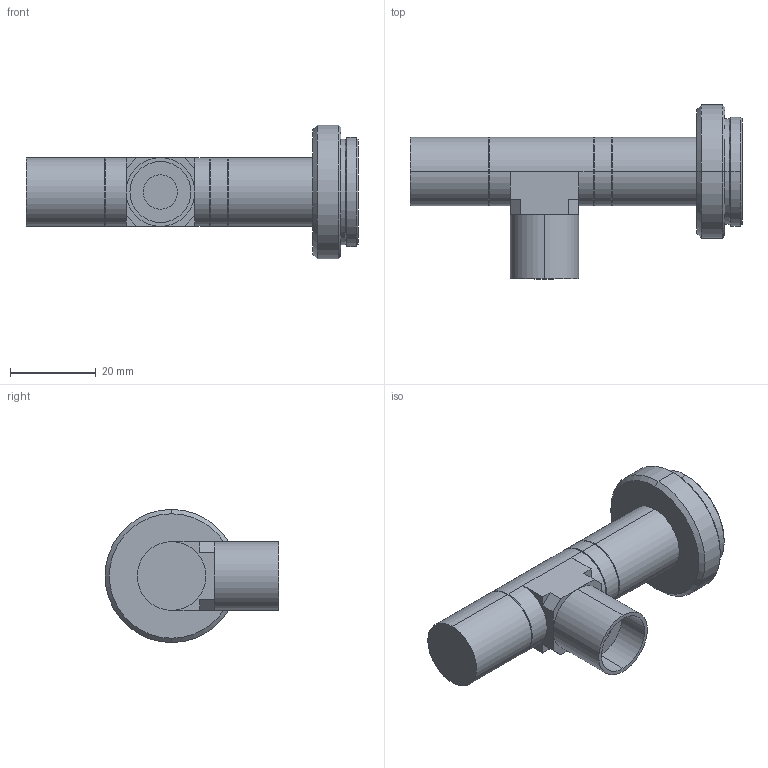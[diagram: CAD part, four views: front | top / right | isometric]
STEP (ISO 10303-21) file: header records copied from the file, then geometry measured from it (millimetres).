
FILE_DESCRIPTION (( 'STEP AP203' ), '1' );
FILE_NAME ('VS-TC5-65CO.STEP', '2016-07-25T00:21:51', ( 'miura_vst' ), ( '' ), 'SwSTEP 2.0', 'SolidWorks 2016', '' );
FILE_SCHEMA (( 'CONFIG_CONTROL_DESIGN' ));
Length unit declared in the file: millimetre
Products named in the file (1): VS-TC5-65CO
Bounding box: 77.3 x 40.5 x 31 mm (x, y, z)
Volume: 22617.5 mm3; surface area: 7316.5 mm2
Topology: 1 solids, 1 shells, 64 faces, 136 edges, 78 vertices
Faces by surface type: plane 23, cylinder 21, cone 20
Entity records: 1769 total; most frequent: DIRECTION 322, CARTESIAN_POINT 279, ORIENTED_EDGE 272, EDGE_CURVE 136, AXIS2_PLACEMENT_3D 121, LINE 80, VECTOR 80, VERTEX_POINT 78
